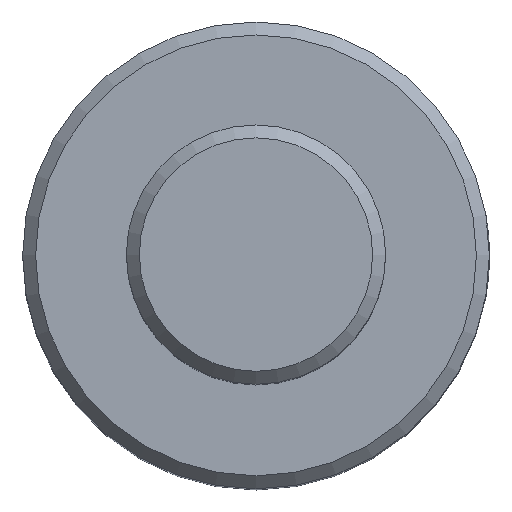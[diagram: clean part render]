
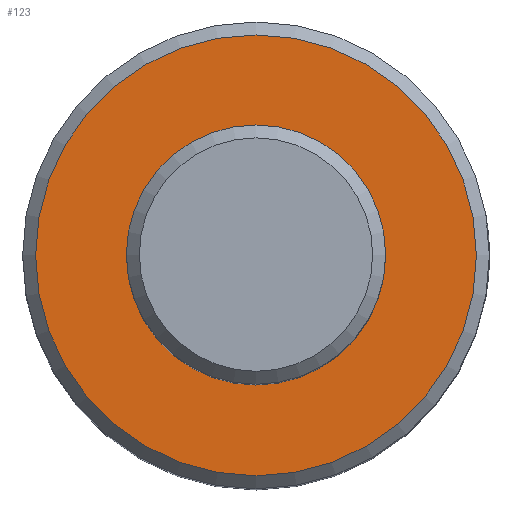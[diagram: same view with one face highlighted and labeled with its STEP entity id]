
A CAD part, top view. The second image highlights one B-rep face of the part: STEP entity #123.
In plain terms, the highlighted conical face has half-angle 90 degrees and reference radius 14 mm.
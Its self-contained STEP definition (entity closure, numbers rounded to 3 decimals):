
#115=CONICAL_SURFACE('',#352,14.,90.);
#123=ADVANCED_FACE('',(#181,#182),#115,.F.);
#181=FACE_BOUND('',#202,.T.);
#182=FACE_BOUND('',#203,.T.);
#202=EDGE_LOOP('',(#237));
#203=EDGE_LOOP('',(#238));
#237=ORIENTED_EDGE('',*,*,#315,.T.);
#238=ORIENTED_EDGE('',*,*,#313,.F.);
#291=VERTEX_POINT('',#643);
#293=VERTEX_POINT('',#648);
#313=EDGE_CURVE('',#291,#291,#333,.T.);
#315=EDGE_CURVE('',#293,#293,#335,.T.);
#333=CIRCLE('',#348,10.);
#335=CIRCLE('',#351,17.);
#348=AXIS2_PLACEMENT_3D('',#642,#385,#386);
#351=AXIS2_PLACEMENT_3D('',#647,#391,#392);
#352=AXIS2_PLACEMENT_3D('',#649,#393,#394);
#385=DIRECTION('',(-1.,0.,0.));
#386=DIRECTION('',(0.,0.,-1.));
#391=DIRECTION('',(-1.,0.,0.));
#392=DIRECTION('',(0.,0.,1.));
#393=DIRECTION('',(-1.,0.,0.));
#394=DIRECTION('',(0.,0.,1.));
#642=CARTESIAN_POINT('',(-55.,0.,0.));
#643=CARTESIAN_POINT('',(-55.,0.,-10.));
#647=CARTESIAN_POINT('',(-55.,0.,0.));
#648=CARTESIAN_POINT('',(-55.,0.,17.));
#649=CARTESIAN_POINT('',(-55.,0.,0.));
